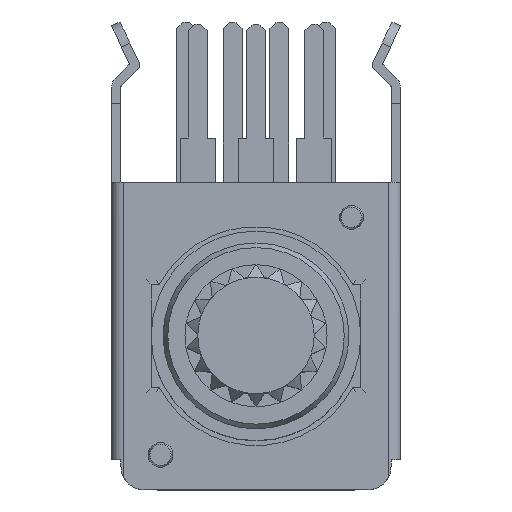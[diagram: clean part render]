
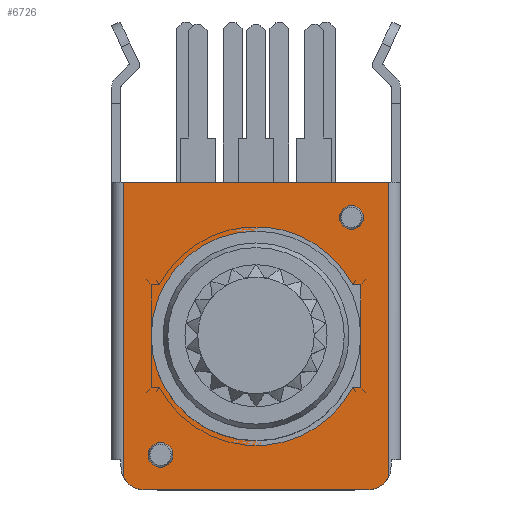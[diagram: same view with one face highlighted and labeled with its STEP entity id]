
A CAD part, top view. The second image highlights one B-rep face of the part: STEP entity #6726.
In plain terms, the highlighted planar face has unit normal (0, 0, 1).
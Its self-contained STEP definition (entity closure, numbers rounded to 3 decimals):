
#482=FACE_OUTER_BOUND($,#833,.T.);
#833=EDGE_LOOP($,(#6103,#6104,#6105,#6106,#6107,#6108));
#995=CIRCLE($,#7216,1.);
#1008=CIRCLE($,#7252,1.);
#1609=LINE($,#10861,#2401);
#1653=LINE($,#10993,#2445);
#1674=LINE($,#11055,#2466);
#1729=LINE($,#11187,#2521);
#2401=VECTOR($,#8686,9.6);
#2445=VECTOR($,#8796,11.4);
#2466=VECTOR($,#8847,12.636);
#2521=VECTOR($,#8972,12.636);
#3140=VERTEX_POINT($,#10855);
#3142=VERTEX_POINT($,#10859);
#3195=VERTEX_POINT($,#10989);
#3197=VERTEX_POINT($,#10992);
#3217=VERTEX_POINT($,#11041);
#3252=VERTEX_POINT($,#11175);
#4079=EDGE_CURVE($,#3142,#3140,#1609,.T.);
#4140=EDGE_CURVE($,#3195,#3197,#1653,.T.);
#4166=EDGE_CURVE($,#3140,#3217,#995,.T.);
#4170=EDGE_CURVE($,#3217,#3195,#1674,.T.);
#4235=EDGE_CURVE($,#3252,#3142,#1008,.T.);
#4239=EDGE_CURVE($,#3197,#3252,#1729,.T.);
#6103=ORIENTED_EDGE($,*,*,#4166,.F.);
#6104=ORIENTED_EDGE($,*,*,#4079,.F.);
#6105=ORIENTED_EDGE($,*,*,#4235,.F.);
#6106=ORIENTED_EDGE($,*,*,#4239,.F.);
#6107=ORIENTED_EDGE($,*,*,#4140,.F.);
#6108=ORIENTED_EDGE($,*,*,#4170,.F.);
#6383=PLANE($,#7317);
#6726=ADVANCED_FACE($,(#482),#6383,.T.);
#7216=AXIS2_PLACEMENT_3D($,#11049,#8837,#8838);
#7252=AXIS2_PLACEMENT_3D($,#11176,#8965,#8966);
#7317=AXIS2_PLACEMENT_3D($,#11410,#9188,#9189);
#8686=DIRECTION($,(-1.,0.,0.));
#8796=DIRECTION($,(1.,0.,0.));
#8837=DIRECTION('center_axis',(0.,0.,
-1.));
#8838=DIRECTION('ref_axis',(-0.707,-0.707,0.));
#8847=DIRECTION($,(0.,1.,0.));
#8965=DIRECTION('center_axis',(0.,0.,
-1.));
#8966=DIRECTION('ref_axis',(0.707,-0.707,0.));
#8972=DIRECTION($,(0.,-1.,0.));
#9188=DIRECTION('center_axis',(0.,0.,
1.));
#9189=DIRECTION('ref_axis',(-1.,0.,0.));
#10855=CARTESIAN_POINT('',(-4.8,-6.6,6.6));
#10859=CARTESIAN_POINT('',(4.8,-6.6,6.6));
#10861=CARTESIAN_POINT($,(5.8,-6.6,6.6));
#10989=CARTESIAN_POINT('',(-5.7,6.6,6.6));
#10992=CARTESIAN_POINT('',(5.7,6.6,6.6));
#10993=CARTESIAN_POINT($,(5.8,6.6,6.6));
#11041=CARTESIAN_POINT('',(-5.7,-6.036,6.6));
#11049=CARTESIAN_POINT('Origin',(-4.8,-5.6,6.6));
#11055=CARTESIAN_POINT($,(-5.7,0.,6.6));
#11175=CARTESIAN_POINT('',(5.7,-6.036,6.6));
#11176=CARTESIAN_POINT('Origin',(4.8,-5.6,6.6));
#11187=CARTESIAN_POINT($,(5.7,0.,6.6));
#11410=CARTESIAN_POINT('Origin',(0.,0.,
6.6));
